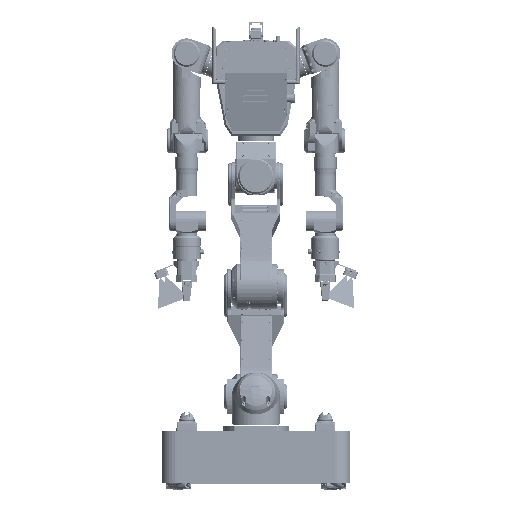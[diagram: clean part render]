
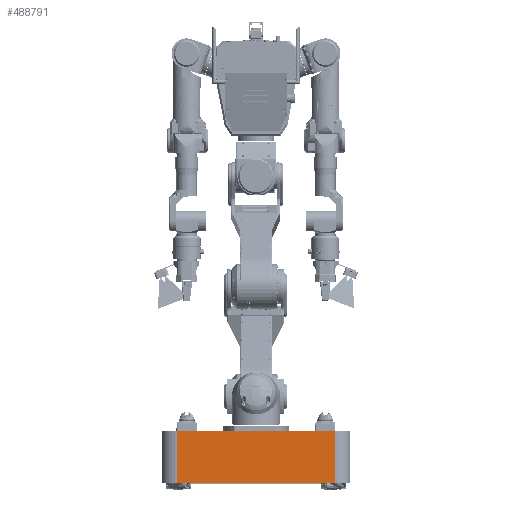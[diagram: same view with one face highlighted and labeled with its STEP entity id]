
A CAD part, left-side view. The second image highlights one B-rep face of the part: STEP entity #488791.
In plain terms, the highlighted planar face has unit normal (-1, 0, 0).
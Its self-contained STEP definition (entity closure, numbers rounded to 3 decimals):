
#23263=PLANE('',#525865);
#64690=FACE_OUTER_BOUND('',#94705,.T.);
#94705=EDGE_LOOP('',(#345203,#345204,#345205,#345206));
#125831=LINE('',#768656,#158394);
#125853=LINE('',#768739,#158416);
#125858=LINE('',#768753,#158421);
#125859=LINE('',#768754,#158422);
#158394=VECTOR('',#589048,1000.);
#158416=VECTOR('',#589116,1000.);
#158421=VECTOR('',#589129,1000.);
#158422=VECTOR('',#589130,1000.);
#220945=VERTEX_POINT('',#768653);
#220946=VERTEX_POINT('',#768655);
#220983=VERTEX_POINT('',#768736);
#220984=VERTEX_POINT('',#768738);
#269549=EDGE_CURVE('',#220945,#220946,#125831,.T.);
#269592=EDGE_CURVE('',#220984,#220983,#125853,.T.);
#269600=EDGE_CURVE('',#220983,#220946,#125858,.T.);
#269601=EDGE_CURVE('',#220945,#220984,#125859,.T.);
#345203=ORIENTED_EDGE('',*,*,#269592,.T.);
#345204=ORIENTED_EDGE('',*,*,#269600,.T.);
#345205=ORIENTED_EDGE('',*,*,#269549,.F.);
#345206=ORIENTED_EDGE('',*,*,#269601,.T.);
#488791=ADVANCED_FACE('',(#64690),#23263,.F.);
#525865=AXIS2_PLACEMENT_3D('',#768752,#589127,#589128);
#589048=DIRECTION('',(0.,-1.,0.));
#589116=DIRECTION('',(0.,-1.,0.));
#589127=DIRECTION('center_axis',(1.,0.,0.));
#589128=DIRECTION('ref_axis',(0.,0.,
1.));
#589129=DIRECTION('',(0.,0.,1.));
#589130=DIRECTION('',(0.,0.,-1.));
#768653=CARTESIAN_POINT('',(-349.5,250.,185.6));
#768655=CARTESIAN_POINT('',(-349.5,-250.,185.6));
#768656=CARTESIAN_POINT('',(-349.5,300.,185.6));
#768736=CARTESIAN_POINT('',(-349.5,-250.,20.6));
#768738=CARTESIAN_POINT('',(-349.5,250.,20.6));
#768739=CARTESIAN_POINT('',(-349.5,300.,20.6));
#768752=CARTESIAN_POINT('Origin',(-349.5,300.,185.6));
#768753=CARTESIAN_POINT('',(-349.5,-250.,185.6));
#768754=CARTESIAN_POINT('',(-349.5,250.,185.6));
